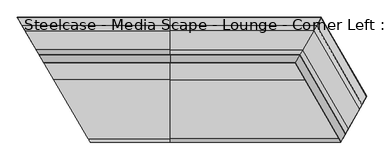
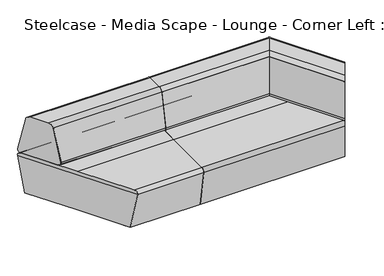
"""IFC4 building model written with IfcOpenShell, lengths in millimetres: furniture geometry, Steelcase - Media Scape - Lounge - Corner Left : Multiple Upholstery - Front Seat and Back."""

from ifc_helpers import new_model, si_unit, point, frame, origin, place, context, project, spatial, polyline, circle_curve, ellipse_curve, trimmed, source, transform, mapped, element, save
from ifc_brep_helpers import plane_surface, cylinder_surface, revolved_surface, advanced_brep


def steelcase_media_scape_lounge_corner_left_multiple_upholstery_6188d228(model_context):
    return source(origin(), model_context, "Body", "AdvancedBrep", [
        advanced_brep(
        [(532.4537919, 416.9525328, 404.6983065), (532.4537919, 808.759271, 404.6983065), (532.4537919, 833.8007481, 375.0457281), (532.4537919, 0.1043175, 375.0457281), (532.4537919, 25.1457946, 404.6983065), (1782.1216274, 416.9525328, 404.6983065), (1556.2434123, 808.759271, 404.6983065), (1541.8068965, 833.8007481, 375.0457281), (1844.1308819, 309.391723, 375.0457281), (1670.1514179, 0.1043175, 375.0457281), (1684.2376778, 25.1457946, 404.6983065), (1844.1308819, 309.391723, 404.6983065)],
        [
            (0, 1),
            (1, 2, circle_curve(frame((532.4537919, 808.759271, 379.2983065), z_axis=(-1.0, 0.0, 0.0), x_axis=(0.0, 1.0, 0.0)), 25.4)),
            (2, 3),
            (3, 4, circle_curve(frame((532.4537919, 25.1457946, 379.2983065), z_axis=(-1.0, 0.0, 0.0), x_axis=(0.0, -1.0, 0.0)), 25.4)),
            (4, 0),
            (0, 5),
            (5, 6),
            (6, 1),
            (6, 7, ellipse_curve(frame((1556.2434123, 808.759271, 379.2983065), z_axis=(-0.866342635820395, -0.4994501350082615, 0.0), x_axis=(-0.49945013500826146, 0.8663426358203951, 0.0)), 29.318654, 25.4)),
            (7, 2),
            (7, 8),
            (8, 9),
            (9, 3),
            (9, 10, ellipse_curve(frame((1684.2376778, 25.1457946, 379.2983065), z_axis=(-0.8715691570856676, 0.4902725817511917, 0.0), x_axis=(-0.49027258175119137, -0.8715691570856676, 0.0)), 29.1428394, 25.4)),
            (10, 4),
            (10, 11),
            (11, 5),
            (8, 11),
        ],
        [
            plane_surface(frame((532.4537919, 891.4773142, 404.6983065), z_axis=(-1.0, 0.0, 0.0), x_axis=(0.0, 1.0, 0.0))),
            plane_surface(frame((532.4537919, 416.9525328, 404.6983065), z_axis=(0.0, 0.0, 1.0), x_axis=(1.0, 0.0, 0.0))),
            cylinder_surface(frame((1888.7682205, 808.759271, 379.2983065), z_axis=(-1.0, 0.0, 0.0), x_axis=(0.0, 1.0, 0.0)), 25.4),
            plane_surface(frame((532.4537919, 833.8007481, 375.0457281), z_axis=(0.0, 0.0, -1.0), x_axis=(1.0, 0.0, 0.0))),
            cylinder_surface(frame((1888.7682205, 25.1457946, 379.2983065), z_axis=(-1.0, 0.0, 0.0), x_axis=(0.0, -1.0, 0.0)), 25.4),
            plane_surface(frame((532.4537919, 25.1457946, 404.6983065), z_axis=(0.0, 0.0, 1.0), x_axis=(1.0, 0.0, 0.0))),
            plane_surface(frame((1844.1308819, 309.391723, 975.8102777), z_axis=(0.8715691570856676, -0.4902725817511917, 0.0), x_axis=(0.0, 0.0, -1.0))),
            plane_surface(frame((1512.8100786, 884.0984212, 975.8102777), z_axis=(0.866342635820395, 0.4994501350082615, 0.0), x_axis=(0.0, 0.0, -1.0))),
        ],
        [
            (0, [[1, 2, 3, 4, 5]]),
            (1, [[-1, 6, 7, 8]]),
            (2, [[-2, -8, 9, 10]]),
            (3, [[-3, -10, 11, 12, 13]]),
            (4, [[-4, -13, 14, 15]]),
            (5, [[-5, -15, 16, 17, -6]]),
            (6, [[18, -16, -14, -12]]),
            (7, [[-18, -11, -9, -7, -17]]),
        ],
    ),
        advanced_brep(
        [(532.4537919, 416.9525328, 404.6983065), (532.4537919, 25.1457946, 404.6983065), (532.4537919, 0.1043175, 375.0457281), (532.4537919, 833.8007481, 375.0457281), (532.4537919, 808.759271, 404.6983065), (-243.5508969, 416.9525328, 404.6983065), (-14.6881967, 25.1457946, 404.6983065), (-0.0609341, 0.1043175, 375.0457281), (-487.0408596, 833.8007481, 375.0457281), (-472.413597, 808.759271, 404.6983065)],
        [
            (0, 1),
            (1, 2, circle_curve(frame((532.4537919, 25.1457946, 379.2983065), z_axis=(1.0, 0.0, 0.0), x_axis=(0.0, -1.0, 0.0)), 25.4)),
            (2, 3),
            (3, 4, circle_curve(frame((532.4537919, 808.759271, 379.2983065), z_axis=(1.0, 0.0, 0.0), x_axis=(0.0, 1.0, 0.0)), 25.4)),
            (4, 0),
            (0, 5),
            (5, 6),
            (6, 1),
            (6, 7, ellipse_curve(frame((-14.6881967, 25.1457946, 379.2983065), z_axis=(0.8634825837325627, 0.5043786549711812, 0.0), x_axis=(0.5043786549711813, -0.8634825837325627, 0.0)), 29.4157641, 25.4)),
            (7, 2),
            (7, 8),
            (8, 3),
            (8, 9, ellipse_curve(frame((-472.413597, 808.759271, 379.2983065), z_axis=(0.8634825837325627, 0.5043786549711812, 0.0), x_axis=(0.5043786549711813, -0.8634825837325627, 0.0)), 29.4157641, 25.4)),
            (9, 4),
            (9, 5),
        ],
        [
            plane_surface(frame((532.4537919, -57.5722485, 404.6983065), z_axis=(1.0, 0.0, 0.0), x_axis=(0.0, -1.0, 0.0))),
            plane_surface(frame((532.4537919, 416.9525328, 404.6983065), z_axis=(0.0, 0.0, 1.0), x_axis=(-1.0, 0.0, 0.0))),
            cylinder_surface(frame((-497.6810517, 25.1457946, 379.2983065), z_axis=(1.0, 0.0, 0.0), x_axis=(0.0, -1.0, 0.0)), 25.4),
            plane_surface(frame((532.4537919, 0.1043175, 375.0457281), z_axis=(0.0, 0.0, -1.0), x_axis=(-1.0, 0.0, 0.0))),
            cylinder_surface(frame((-497.6810517, 808.759271, 379.2983065), z_axis=(1.0, 0.0, 0.0), x_axis=(0.0, 1.0, 0.0)), 25.4),
            plane_surface(frame((532.4537919, 808.759271, 404.6983065), z_axis=(0.0, 0.0, 1.0), x_axis=(-1.0, 0.0, 0.0))),
            plane_surface(frame((43.2681632, -74.0739223, 831.6576803), z_axis=(-0.8634825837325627, -0.5043786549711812, 0.0), x_axis=(0.0, 0.0, -1.0))),
        ],
        [
            (0, [[1, 2, 3, 4, 5]]),
            (1, [[-1, 6, 7, 8]]),
            (2, [[-2, -8, 9, 10]]),
            (3, [[-3, -10, 11, 12]]),
            (4, [[-4, -12, 13, 14]]),
            (5, [[-5, -14, 15, -6]]),
            (6, [[-7, -15, -13, -11, -9]]),
        ],
    ),
        advanced_brep(
        [(532.4537919, 556.3973372, 404.1903065), (532.4537919, 807.0353985, 404.1903065), (532.4537919, 807.0353985, 405.2063065), (532.4537919, 556.5535694, 405.2063065), (532.4537919, 532.5050909, 434.4651844), (532.4537919, 586.4222592, 707.6422134), (532.4537919, 585.386659, 707.6422134), (532.4537919, 531.4780681, 434.5086426), (-310.4477128, 531.4780681, 434.5086426), (-325.0035911, 556.3973372, 404.1903065), (-341.9368743, 585.386659, 707.6422134), (-342.5417906, 586.4222592, 707.6422134), (-311.0476188, 532.5050909, 434.4651844), (-325.0948497, 556.5535694, 405.2063065), (-471.4066462, 807.0353985, 405.2063065), (-471.4066462, 807.0353985, 404.1903065)],
        [
            (0, 1),
            (1, 2),
            (2, 3),
            (3, 4, circle_curve(frame((532.4537919, 556.5535694, 429.718717), z_axis=(-1.0, 0.0, 0.0), x_axis=(0.0, -1.0, 0.0)), 24.5124105)),
            (4, 5),
            (5, 6),
            (6, 7),
            (7, 0, circle_curve(frame((532.4537919, 556.3973372, 429.5903065), z_axis=(1.0, 0.0, 0.0), x_axis=(0.0, -1.0, 0.0)), 25.4)),
            (7, 8),
            (8, 9, ellipse_curve(frame((-325.0035911, 556.3973372, 429.5903065), z_axis=(0.8634825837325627, 0.5043786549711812, 0.0), x_axis=(-0.5043786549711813, 0.8634825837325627, 0.0)), 29.4157641, 25.4)),
            (9, 0),
            (6, 10),
            (10, 8),
            (5, 11),
            (11, 10),
            (4, 12),
            (12, 11),
            (3, 13),
            (13, 12, ellipse_curve(frame((-325.0948497, 556.5535694, 429.718717), z_axis=(-0.8634825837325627, -0.5043786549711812, 0.0), x_axis=(0.5043786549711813, -0.8634825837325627, 0.0)), 28.3878459, 24.5124105)),
            (2, 14),
            (14, 13),
            (1, 15),
            (15, 14),
            (9, 15),
        ],
        [
            plane_surface(frame((532.4537919, 530.9973372, 429.5903065), z_axis=(1.0, 0.0, 0.0), x_axis=(0.0, 0.0, -1.0))),
            cylinder_surface(frame((532.4537919, 556.3973372, 429.5903065), z_axis=(-1.0, 0.0, 0.0), x_axis=(0.0, -1.0, 0.0)), 25.4),
            plane_surface(frame((-494.2685786, 531.4780681, 434.5086426), z_axis=(0.0, -0.9810735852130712, 0.1936352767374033), x_axis=(1.0, 0.0, 0.0))),
            plane_surface(frame((-494.2685786, 585.386659, 707.6422134), z_axis=(0.0, 0.0, 1.0), x_axis=(1.0, 0.0, 0.0))),
            plane_surface(frame((-494.2685786, 586.4222592, 707.6422134), z_axis=(0.0, 0.9810735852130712, -0.19363527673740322), x_axis=(1.0, 0.0, 0.0))),
            revolved_surface(polyline([(532.4537919, 532.0411589, 429.718717), (-339.41307323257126, 532.0411589, 429.718717)]), (532.4537919, 556.5535694, 429.718717), (1.0, 0.0, 0.0)),
            plane_surface(frame((-494.2685786, 556.5535694, 405.2063065), z_axis=(0.0, 0.0, 1.0), x_axis=(1.0, 0.0, 0.0))),
            plane_surface(frame((-494.2685786, 807.0353985, 405.2063065), z_axis=(0.0, 1.0, 0.0), x_axis=(1.0, 0.0, 0.0))),
            plane_surface(frame((-494.2685786, 807.0353985, 404.1903065), z_axis=(0.0, 0.0, -1.0), x_axis=(1.0, 0.0, 0.0))),
            plane_surface(frame((43.2681632, -74.0739223, 831.6576803), z_axis=(-0.8634825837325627, -0.5043786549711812, 0.0), x_axis=(0.0, 0.0, -1.0))),
        ],
        [
            (0, [[1, 2, 3, 4, 5, 6, 7, 8]]),
            (1, [[-8, 9, 10, 11]]),
            (2, [[-7, 12, 13, -9]]),
            (3, [[-6, 14, 15, -12]]),
            (4, [[-5, 16, 17, -14]]),
            (5, [[-4, 18, 19, -16]]),
            (6, [[-3, 20, 21, -18]]),
            (7, [[-2, 22, 23, -20]]),
            (8, [[-1, -11, 24, -22]]),
            (9, [[-10, -13, -15, -17, -19, -21, -23, -24]]),
        ],
    ),
        advanced_brep(
        [(532.4537919, 556.3973372, 404.1903065), (532.4537919, 531.4780681, 434.5086426), (532.4537919, 585.386659, 707.6422134), (532.4537919, 586.4222592, 707.6422134), (532.4537919, 532.5050909, 434.4651844), (532.4537919, 556.5535694, 405.2063065), (532.4537919, 807.0353985, 405.2063065), (532.4537919, 807.0353985, 404.1903065), (1527.340485, 807.0353985, 404.1903065), (1382.6405156, 556.3973372, 404.1903065), (1527.340485, 807.0353985, 405.2063065), (1382.7307126, 556.5535694, 405.2063065), (1368.8468911, 532.5050909, 434.4651844), (1399.9746957, 586.4222592, 707.6422134), (1399.3768164, 585.386659, 707.6422134), (1368.2539637, 531.4780681, 434.5086426)],
        [
            (0, 1, circle_curve(frame((532.4537919, 556.3973372, 429.5903065), z_axis=(-1.0, 0.0, 0.0), x_axis=(0.0, -1.0, 0.0)), 25.4)),
            (1, 2),
            (2, 3),
            (3, 4),
            (4, 5, circle_curve(frame((532.4537919, 556.5535694, 429.718717), z_axis=(1.0, 0.0, 0.0), x_axis=(0.0, -1.0, 0.0)), 24.5124105)),
            (5, 6),
            (6, 7),
            (7, 0),
            (7, 8),
            (8, 9),
            (9, 0),
            (6, 10),
            (10, 8),
            (5, 11),
            (11, 10),
            (4, 12),
            (12, 11, ellipse_curve(frame((1382.7307126, 556.5535694, 429.718717), z_axis=(0.8660343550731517, -0.4999844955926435, 0.0), x_axis=(-0.4999844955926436, -0.8660343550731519, 0.0)), 28.3042011, 24.5124105)),
            (3, 13),
            (13, 12),
            (2, 14),
            (14, 13),
            (1, 15),
            (15, 14),
            (9, 15, ellipse_curve(frame((1382.6405156, 556.3973372, 429.5903065), z_axis=(-0.8660343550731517, 0.4999844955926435, 0.0), x_axis=(0.4999844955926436, 0.8660343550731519, 0.0)), 29.3290905, 25.4)),
        ],
        [
            plane_surface(frame((532.4537919, 852.9550656, 404.1903065), z_axis=(-1.0, 0.0, 0.0), x_axis=(0.0, -1.0, 0.0))),
            plane_surface(frame((1559.1761623, 556.3973372, 404.1903065), z_axis=(0.0, 0.0, -1.0), x_axis=(-1.0, 0.0, 0.0))),
            plane_surface(frame((1559.1761623, 807.0353985, 404.1903065), z_axis=(0.0, 1.0, 0.0), x_axis=(-1.0, 0.0, 0.0))),
            plane_surface(frame((1559.1761623, 807.0353985, 405.2063065), z_axis=(0.0, 0.0, 1.0), x_axis=(-1.0, 0.0, 0.0))),
            revolved_surface(polyline([(532.4537919, 532.0411589, 429.718717), (1396.8823743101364, 532.0411589, 429.718717)]), (532.4537919, 556.5535694, 429.718717), (-1.0, 0.0, 0.0)),
            plane_surface(frame((1559.1761623, 532.5050909, 434.4651844), z_axis=(0.0, 0.9810735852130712, -0.19363527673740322), x_axis=(-1.0, 0.0, 0.0))),
            plane_surface(frame((1559.1761623, 586.4222592, 707.6422134), z_axis=(0.0, 0.0, 1.0), x_axis=(-1.0, 0.0, 0.0))),
            plane_surface(frame((1559.1761623, 585.386659, 707.6422134), z_axis=(0.0, -0.9810735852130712, 0.1936352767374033), x_axis=(-1.0, 0.0, 0.0))),
            cylinder_surface(frame((532.4537919, 556.3973372, 429.5903065), z_axis=(1.0, 0.0, 0.0), x_axis=(0.0, -1.0, 0.0)), 25.4),
            plane_surface(frame((1578.9048197, 896.3511388, 783.4745435), z_axis=(0.8660343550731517, -0.4999844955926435, 0.0), x_axis=(0.0, 0.0, -1.0))),
        ],
        [
            (0, [[1, 2, 3, 4, 5, 6, 7, 8]]),
            (1, [[-8, 9, 10, 11]]),
            (2, [[-7, 12, 13, -9]]),
            (3, [[-6, 14, 15, -12]]),
            (4, [[-5, 16, 17, -14]]),
            (5, [[-4, 18, 19, -16]]),
            (6, [[-3, 20, 21, -18]]),
            (7, [[-2, 22, 23, -20]]),
            (8, [[-1, -11, 24, -22]]),
            (9, [[-10, -13, -15, -17, -19, -21, -23, -24]]),
        ],
    ),
        advanced_brep(
        [(532.4537919, 744.618392, 735.1171206), (532.4537919, 778.0460766, 707.6422134), (532.4537919, 831.9045354, 434.7626426), (532.4537919, 806.9852663, 404.4443065), (532.4537919, 556.7014693, 404.4443065), (532.4537919, 531.7822003, 434.7626426), (532.4537919, 585.640659, 707.6422134), (532.4537919, 619.0683436, 735.1171206), (1418.8221421, 619.0683436, 735.1171206), (1491.3054994, 744.618392, 735.1171206), (1399.5234573, 585.640659, 707.6422134), (1368.4295472, 531.7822003, 434.7626426), (1382.8160991, 556.7014693, 404.4443065), (1527.3115423, 806.9852663, 404.4443065), (1541.6980942, 831.9045354, 434.7626426), (1510.6041842, 778.0460766, 707.6422134)],
        [
            (0, 1, circle_curve(frame((532.4537919, 744.618392, 701.0445646), z_axis=(-1.0, 0.0, 0.0), x_axis=(0.0, 1.0, 0.0)), 34.0725559)),
            (1, 2),
            (2, 3, circle_curve(frame((532.4537919, 806.9852663, 429.8443065), z_axis=(-1.0, 0.0, 0.0), x_axis=(0.0, 1.0, 0.0)), 25.4)),
            (3, 4),
            (4, 5, circle_curve(frame((532.4537919, 556.7014693, 429.8443065), z_axis=(-1.0, 0.0, 0.0), x_axis=(0.0, -1.0, 0.0)), 25.4)),
            (5, 6),
            (6, 7, circle_curve(frame((532.4537919, 619.0683436, 701.0445646), z_axis=(-1.0, 0.0, 0.0), x_axis=(0.0, -1.0, 0.0)), 34.0725559)),
            (7, 0),
            (7, 8),
            (8, 9),
            (9, 0),
            (6, 10),
            (10, 8, ellipse_curve(frame((1418.8221421, 619.0683436, 701.0445646), z_axis=(-0.8660343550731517, 0.4999844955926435, 0.0), x_axis=(0.4999844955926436, 0.8660343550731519, 0.0)), 39.343192, 34.0725559)),
            (5, 11),
            (11, 10),
            (4, 12),
            (12, 11, ellipse_curve(frame((1382.8160991, 556.7014693, 429.8443065), z_axis=(-0.8660343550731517, 0.4999844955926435, 0.0), x_axis=(0.4999844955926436, 0.8660343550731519, 0.0)), 29.3290905, 25.4)),
            (3, 13),
            (13, 12),
            (2, 14),
            (14, 13, ellipse_curve(frame((1527.3115423, 806.9852663, 429.8443065), z_axis=(-0.8660343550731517, 0.4999844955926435, 0.0), x_axis=(0.4999844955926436, 0.8660343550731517, 0.0)), 29.3290905, 25.4)),
            (1, 15),
            (15, 14),
            (9, 15, ellipse_curve(frame((1491.3054994, 744.618392, 701.0445646), z_axis=(-0.8660343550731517, 0.4999844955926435, 0.0), x_axis=(0.4999844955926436, 0.8660343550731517, 0.0)), 39.343192, 34.0725559)),
        ],
        [
            plane_surface(frame((532.4537919, 567.2050656, 735.1171206), z_axis=(-1.0, 0.0, 0.0), x_axis=(0.0, 1.0, 0.0))),
            plane_surface(frame((1559.1761623, 744.618392, 735.1171206), z_axis=(0.0, 0.0, 1.0), x_axis=(-1.0, 0.0, 0.0))),
            cylinder_surface(frame((532.4537919, 619.0683436, 701.0445646), z_axis=(1.0, 0.0, 0.0), x_axis=(0.0, -1.0, 0.0)), 34.0725559),
            plane_surface(frame((1559.1761623, 585.640659, 707.6422134), z_axis=(0.0, -0.9810735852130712, 0.19363527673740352), x_axis=(-1.0, 0.0, 0.0))),
            cylinder_surface(frame((532.4537919, 556.7014693, 429.8443065), z_axis=(1.0, 0.0, 0.0), x_axis=(0.0, -1.0, 0.0)), 25.4),
            plane_surface(frame((1559.1761623, 556.7014693, 404.4443065), z_axis=(0.0, 0.0, -1.0), x_axis=(-1.0, 0.0, 0.0))),
            cylinder_surface(frame((532.4537919, 806.9852663, 429.8443065), z_axis=(1.0, 0.0, 0.0), x_axis=(0.0, 1.0, 0.0)), 25.4),
            plane_surface(frame((1559.1761623, 831.9045354, 434.7626426), z_axis=(0.0, 0.9810735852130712, 0.19363527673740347), x_axis=(-1.0, 0.0, 0.0))),
            cylinder_surface(frame((532.4537919, 744.618392, 701.0445646), z_axis=(1.0, 0.0, 0.0), x_axis=(0.0, 1.0, 0.0)), 34.0725559),
            plane_surface(frame((1578.9048197, 896.3511388, 783.4745435), z_axis=(0.8660343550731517, -0.4999844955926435, 0.0), x_axis=(0.0, 0.0, -1.0))),
        ],
        [
            (0, [[1, 2, 3, 4, 5, 6, 7, 8]]),
            (1, [[-8, 9, 10, 11]]),
            (2, [[-7, 12, 13, -9]]),
            (3, [[-6, 14, 15, -12]]),
            (4, [[-5, 16, 17, -14]]),
            (5, [[-4, 18, 19, -16]]),
            (6, [[-3, 20, 21, -18]]),
            (7, [[-2, 22, 23, -20]]),
            (8, [[-1, -11, 24, -22]]),
            (9, [[-10, -13, -15, -17, -19, -21, -23, -24]]),
        ],
    ),
        advanced_brep(
        [(1829.3724282, 283.1552709, 404.1903065), (1686.4957828, 29.1600812, 404.1903065), (1382.5908777, 556.3113583, 404.1903065), (1527.3469243, 807.0465521, 404.1903065), (1829.3724282, 283.1552709, 405.2063065), (1527.3469243, 807.0465521, 405.2063065), (1686.5848432, 29.3184061, 405.2063065), (1382.6811097, 556.4676511, 405.2063065), (1672.8759679, 4.9478144, 434.4651844), (1368.7919076, 532.4098528, 434.4651844), (1703.6115398, 59.5871669, 707.6422134), (1399.9317756, 586.3479162, 707.6422134), (1703.0211941, 58.5376956, 707.6422134), (1399.3336645, 585.3119147, 707.6422134), (1672.2905119, 3.9070353, 434.5086426), (1368.1987505, 531.382432, 434.5086426)],
        [
            (0, 1),
            (1, 2),
            (2, 3),
            (3, 0),
            (4, 0),
            (3, 5),
            (5, 4),
            (6, 4),
            (5, 7),
            (7, 6),
            (8, 6, ellipse_curve(frame((1686.5848432, 29.3184061, 429.718717), z_axis=(0.8715691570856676, -0.4902725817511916, 0.0), x_axis=(0.4902725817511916, 0.8715691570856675, 0.0)), 28.5011666, 24.5124105)),
            (7, 9, ellipse_curve(frame((1382.6811097, 556.4676511, 429.718717), z_axis=(-0.8660343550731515, 0.499984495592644, 0.0), x_axis=(0.49998449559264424, 0.8660343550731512, 0.0)), 28.3151701, 24.5124105)),
            (9, 8),
            (10, 8),
            (9, 11),
            (11, 10),
            (12, 10),
            (11, 13),
            (13, 12),
            (14, 12),
            (13, 15),
            (15, 14),
            (1, 14, ellipse_curve(frame((1686.4957828, 29.1600812, 429.5903065), z_axis=(-0.8715691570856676, 0.4902725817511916, 0.0), x_axis=(-0.4902725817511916, -0.8715691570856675, 0.0)), 29.5331882, 25.4)),
            (15, 2, ellipse_curve(frame((1382.5908777, 556.3113583, 429.5903065), z_axis=(0.8660343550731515, -0.499984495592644, 0.0), x_axis=(-0.49998449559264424, -0.8660343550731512, 0.0)), 29.3404568, 25.4)),
        ],
        [
            plane_surface(frame((1704.9150125, -2.789783, 404.1903065), z_axis=(0.0, 0.0, -1.0), x_axis=(-0.4994501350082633, 0.8663426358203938, 0.0))),
            plane_surface(frame((1922.0534512, 122.3914306, 404.1903065), z_axis=(0.8663426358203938, 0.4994501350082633, 0.0), x_axis=(-0.4994501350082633, 0.8663426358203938, 0.0))),
            plane_surface(frame((1922.0534512, 122.3914306, 405.2063065), z_axis=(0.0, 0.0, 1.0), x_axis=(-0.4994501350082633, 0.8663426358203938, 0.0))),
            revolved_surface(polyline([(1354.3659630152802, 556.5041076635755, 429.718717), (1672.6115026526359, 4.4776683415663, 429.718717)]), (1273.7252265, 745.4617475, 429.718717), (-0.4994501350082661, 0.8663426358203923, 0.0)),
            plane_surface(frame((1684.2161409, -14.7227686, 434.4651844), z_axis=(0.8499458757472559, 0.48999733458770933, -0.19363527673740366), x_axis=(-0.4994501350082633, 0.8663426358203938, 0.0))),
            plane_surface(frame((1730.9268826, 12.2061684, 707.6422134), z_axis=(0.0, 0.0, 1.0), x_axis=(-0.49945013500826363, 0.8663426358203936, 0.0))),
            plane_surface(frame((1730.029698, 11.6889377, 707.6422134), z_axis=(-0.849945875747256, -0.4899973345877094, 0.19363527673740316), x_axis=(-0.4994501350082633, 0.8663426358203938, 0.0))),
            cylinder_surface(frame((1273.5898759, 745.3837173, 429.5903065), z_axis=(0.4994501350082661, -0.8663426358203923, 0.0), x_axis=(-0.8663426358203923, -0.4994501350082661, 0.0)), 25.4),
            plane_surface(frame((1844.1308819, 309.391723, 783.4745435), z_axis=(0.8715691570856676, -0.4902725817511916, 0.0), x_axis=(0.0, 0.0, -1.0))),
            plane_surface(frame((1312.2130898, 434.4084138, 783.4745435), z_axis=(-0.8660343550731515, 0.499984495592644, 0.0), x_axis=(0.0, 0.0, -1.0))),
        ],
        [
            (0, [[1, 2, 3, 4]]),
            (1, [[5, -4, 6, 7]]),
            (2, [[8, -7, 9, 10]]),
            (3, [[11, -10, 12, 13]]),
            (4, [[14, -13, 15, 16]]),
            (5, [[17, -16, 18, 19]]),
            (6, [[20, -19, 21, 22]]),
            (7, [[23, -22, 24, -2]]),
            (8, [[-1, -5, -8, -11, -14, -17, -20, -23]]),
            (9, [[-3, -24, -21, -18, -15, -12, -9, -6]]),
        ],
    ),
        advanced_brep(
        [(1722.2214947, 92.6705237, 735.1171206), (1793.7915094, 219.9022306, 735.1171206), (1491.2979737, 744.6053565, 735.1171206), (1418.7865261, 619.0066524, 735.1171206), (1703.1659873, 58.7950977, 707.6422134), (1399.4803623, 585.5660131, 707.6422134), (1672.4638829, 4.2152411, 434.7626426), (1368.3744021, 531.686682, 434.7626426), (1686.6691539, 29.468287, 404.4443065), (1382.7665293, 556.6156083, 404.4443065), (1829.3438503, 283.1044672, 404.4443065), (1527.3179704, 806.9964005, 404.4443065), (1843.5491212, 308.3575131, 434.7626426), (1541.7100977, 831.9253268, 434.7626426), (1812.8470169, 253.7776565, 707.6422134), (1510.6041375, 778.0459957, 707.6422134)],
        [
            (0, 1),
            (1, 2),
            (2, 3),
            (3, 0),
            (4, 0, ellipse_curve(frame((1722.2214947, 92.6705237, 701.0445646), z_axis=(-0.8715691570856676, 0.4902725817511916, 0.0), x_axis=(-0.4902725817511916, -0.8715691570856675, 0.0)), 39.6169766, 34.0725559)),
            (3, 5, ellipse_curve(frame((1418.7865261, 619.0066524, 701.0445646), z_axis=(0.8660343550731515, -0.499984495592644, 0.0), x_axis=(-0.49998449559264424, -0.8660343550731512, 0.0)), 39.3584391, 34.0725559)),
            (5, 4),
            (6, 4),
            (5, 7),
            (7, 6),
            (8, 6, ellipse_curve(frame((1686.6691539, 29.468287, 429.8443065), z_axis=(-0.8715691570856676, 0.4902725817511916, 0.0), x_axis=(-0.4902725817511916, -0.8715691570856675, 0.0)), 29.5331882, 25.4)),
            (7, 9, ellipse_curve(frame((1382.7665293, 556.6156083, 429.8443065), z_axis=(0.8660343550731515, -0.499984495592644, 0.0), x_axis=(-0.49998449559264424, -0.8660343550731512, 0.0)), 29.3404568, 25.4)),
            (9, 8),
            (10, 8),
            (9, 11),
            (11, 10),
            (12, 10, ellipse_curve(frame((1829.3438503, 283.1044672, 429.8443065), z_axis=(-0.8715691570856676, 0.4902725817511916, 0.0), x_axis=(-0.49027258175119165, -0.8715691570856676, 0.0)), 29.5331882, 25.4)),
            (11, 13, ellipse_curve(frame((1527.3179704, 806.9964005, 429.8443065), z_axis=(0.8660343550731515, -0.499984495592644, 0.0), x_axis=(-0.4999844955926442, -0.8660343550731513, 0.0)), 29.3404568, 25.4)),
            (13, 12),
            (14, 12),
            (13, 15),
            (15, 14),
            (1, 14, ellipse_curve(frame((1793.7915094, 219.9022306, 701.0445646), z_axis=(-0.8715691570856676, 0.4902725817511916, 0.0), x_axis=(-0.49027258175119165, -0.8715691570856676, 0.0)), 39.6169766, 34.0725559)),
            (15, 2, ellipse_curve(frame((1491.2979737, 744.6053565, 701.0445646), z_axis=(0.8660343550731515, -0.499984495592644, 0.0), x_axis=(-0.4999844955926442, -0.8660343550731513, 0.0)), 39.3584391, 34.0725559)),
        ],
        [
            plane_surface(frame((1867.9789373, 91.2172483, 735.1171206), z_axis=(0.0, 0.0, 1.0), x_axis=(-0.4994501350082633, 0.8663426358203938, 0.0))),
            cylinder_surface(frame((1327.8844408, 776.6847599, 701.0445646), z_axis=(0.4994501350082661, -0.8663426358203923, 0.0), x_axis=(-0.8663426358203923, -0.4994501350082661, 0.0)), 34.0725559),
            plane_surface(frame((1730.249749, 11.815798, 707.6422134), z_axis=(-0.849945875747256, -0.4899973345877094, 0.19363527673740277), x_axis=(-0.4994501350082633, 0.8663426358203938, 0.0))),
            cylinder_surface(frame((1273.8533586, 745.5356162, 429.8443065), z_axis=(0.4994501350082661, -0.8663426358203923, 0.0), x_axis=(-0.8663426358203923, -0.4994501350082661, 0.0)), 25.4),
            plane_surface(frame((1705.1784952, -2.6378841, 404.4443065), z_axis=(0.0, 0.0, -1.0000000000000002), x_axis=(-0.4994501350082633, 0.866342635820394, 0.0))),
            cylinder_surface(frame((1490.6848829, 870.5398923, 429.8443065), z_axis=(0.49945013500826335, -0.8663426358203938, 0.0), x_axis=(0.8663426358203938, 0.49945013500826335, 0.0)), 25.4),
            plane_surface(frame((1943.5986448, 134.8123243, 434.7626426), z_axis=(0.8499458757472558, 0.48999733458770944, 0.193635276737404), x_axis=(-0.49945013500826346, 0.8663426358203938, 0.0))),
            cylinder_surface(frame((1436.6538007, 839.3907486, 701.0445646), z_axis=(0.49945013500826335, -0.8663426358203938, 0.0), x_axis=(0.8663426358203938, 0.49945013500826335, 0.0)), 34.0725559),
            plane_surface(frame((1844.1308819, 309.391723, 783.4745435), z_axis=(0.8715691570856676, -0.4902725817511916, 0.0), x_axis=(0.0, 0.0, -1.0))),
            plane_surface(frame((1312.2130898, 434.4084138, 783.4745435), z_axis=(-0.8660343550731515, 0.499984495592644, 0.0), x_axis=(0.0, 0.0, -1.0))),
        ],
        [
            (0, [[1, 2, 3, 4]]),
            (1, [[5, -4, 6, 7]]),
            (2, [[8, -7, 9, 10]]),
            (3, [[11, -10, 12, 13]]),
            (4, [[14, -13, 15, 16]]),
            (5, [[17, -16, 18, 19]]),
            (6, [[20, -19, 21, 22]]),
            (7, [[23, -22, 24, -2]]),
            (8, [[-1, -5, -8, -11, -14, -17, -20, -23]]),
            (9, [[-3, -24, -21, -18, -15, -12, -9, -6]]),
        ],
    ),
        advanced_brep(
        [(532.4537919, 416.9525328, 404.4443065), (532.4537919, 808.4584998, 404.4443065), (532.4537919, 833.4999769, 374.7917281), (532.4537919, 782.5280351, 74.6414242), (532.4537919, 416.9525328, 74.6414242), (532.4537919, 51.3770305, 74.6414242), (532.4537919, 0.4050887, 374.7917281), (532.4537919, 25.4465658, 404.4443065), (1782.1216274, 416.9525328, 404.4443065), (1556.4168081, 808.4584998, 404.4443065), (1541.9802923, 833.4999769, 374.7917281), (1571.3658289, 782.5280351, 74.6414242), (1782.1216274, 416.9525328, 74.6414242), (1844.1308819, 309.391723, 74.6414242), (1698.9931974, 51.3770305, 74.6414242), (1670.3206069, 0.4050887, 374.7917281), (1684.4068668, 25.4465658, 404.4443065), (1844.1308819, 309.391723, 404.4443065)],
        [
            (0, 1),
            (1, 2, circle_curve(frame((532.4537919, 808.4584998, 379.0443065), z_axis=(-1.0, 0.0, 0.0), x_axis=(0.0, 1.0, 0.0)), 25.4)),
            (2, 3),
            (3, 4),
            (4, 5),
            (5, 6),
            (6, 7, circle_curve(frame((532.4537919, 25.4465658, 379.0443065), z_axis=(-1.0, 0.0, 0.0), x_axis=(0.0, -1.0, 0.0)), 25.4)),
            (7, 0),
            (0, 8),
            (8, 9),
            (9, 1),
            (9, 10, ellipse_curve(frame((1556.4168081, 808.4584998, 379.0443065), z_axis=(-0.8663426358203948, -0.4994501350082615, 0.0), x_axis=(-0.4994501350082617, 0.866342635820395, 0.0)), 29.318654, 25.4)),
            (10, 2),
            (10, 11),
            (11, 3),
            (11, 12),
            (12, 4),
            (12, 13),
            (13, 14),
            (14, 5),
            (14, 15),
            (15, 6),
            (15, 16, ellipse_curve(frame((1684.4068668, 25.4465658, 379.0443065), z_axis=(-0.8715691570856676, 0.4902725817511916, 0.0), x_axis=(-0.4902725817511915, -0.8715691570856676, 0.0)), 29.1428394, 25.4)),
            (16, 7),
            (16, 17),
            (17, 8),
            (13, 17),
        ],
        [
            plane_surface(frame((532.4537919, 891.4773142, 404.4443065), z_axis=(-1.0, 0.0, 0.0), x_axis=(0.0, 1.0, 0.0))),
            plane_surface(frame((532.4537919, 416.9525328, 404.4443065), z_axis=(0.0, 0.0, 1.0), x_axis=(1.0, 0.0, 0.0))),
            cylinder_surface(frame((1864.4893496, 808.4584998, 379.0443065), z_axis=(-1.0, 0.0, 0.0), x_axis=(0.0, 1.0, 0.0)), 25.4),
            plane_surface(frame((532.4537919, 833.4999769, 374.7917281), z_axis=(0.0, 0.9858849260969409, -0.1674243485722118), x_axis=(1.0, 0.0, 0.0))),
            plane_surface(frame((532.4537919, 782.5280351, 74.6414242), z_axis=(0.0, 0.0, -1.0), x_axis=(1.0, 0.0, 0.0))),
            plane_surface(frame((532.4537919, 416.9525328, 74.6414242), z_axis=(0.0, 0.0, -1.0), x_axis=(1.0, 0.0, 0.0))),
            plane_surface(frame((532.4537919, 51.3770305, 74.6414242), z_axis=(0.0, -0.9858849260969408, -0.16742434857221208), x_axis=(1.0, 0.0, 0.0))),
            cylinder_surface(frame((1864.4893496, 25.4465658, 379.0443065), z_axis=(-1.0, 0.0, 0.0), x_axis=(0.0, -1.0, 0.0)), 25.4),
            plane_surface(frame((532.4537919, 25.4465658, 404.4443065), z_axis=(0.0, 0.0, 1.0), x_axis=(1.0, 0.0, 0.0))),
            plane_surface(frame((1844.1308819, 309.391723, 783.4745435), z_axis=(0.8715691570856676, -0.4902725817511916, 0.0), x_axis=(0.0, 0.0, -1.0))),
            plane_surface(frame((1512.8100786, 884.0984212, 783.4745435), z_axis=(0.8663426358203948, 0.4994501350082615, 0.0), x_axis=(0.0, 0.0, -1.0))),
        ],
        [
            (0, [[1, 2, 3, 4, 5, 6, 7, 8]]),
            (1, [[-1, 9, 10, 11]]),
            (2, [[-2, -11, 12, 13]]),
            (3, [[-3, -13, 14, 15]]),
            (4, [[-4, -15, 16, 17]]),
            (5, [[-5, -17, 18, 19, 20]]),
            (6, [[-6, -20, 21, 22]]),
            (7, [[-7, -22, 23, 24]]),
            (8, [[-8, -24, 25, 26, -9]]),
            (9, [[27, -25, -23, -21, -19]]),
            (10, [[-27, -18, -16, -14, -12, -10, -26]]),
        ],
    ),
        advanced_brep(
        [(532.4537919, 744.618392, 735.1171206), (532.4537919, 619.0683436, 735.1171206), (532.4537919, 585.640659, 707.6422134), (532.4537919, 531.7822003, 434.7626426), (532.4537919, 556.7014693, 404.4443065), (532.4537919, 806.9852663, 404.4443065), (532.4537919, 831.9045354, 434.7626426), (532.4537919, 778.0460766, 707.6422134), (-454.4733629, 778.0460766, 707.6422134), (-434.947537, 744.618392, 735.1171206), (-485.9332412, 831.9045354, 434.7626426), (-471.3773629, 806.9852663, 404.4443065), (-325.1812412, 556.7014693, 404.4443065), (-310.6253629, 531.7822003, 434.7626426), (-342.0852412, 585.640659, 707.6422134), (-361.6110671, 619.0683436, 735.1171206)],
        [
            (0, 1),
            (1, 2, circle_curve(frame((532.4537919, 619.0683436, 701.0445646), z_axis=(1.0, 0.0, 0.0), x_axis=(0.0, -1.0, 0.0)), 34.0725559)),
            (2, 3),
            (3, 4, circle_curve(frame((532.4537919, 556.7014693, 429.8443065), z_axis=(1.0, 0.0, 0.0), x_axis=(0.0, -1.0, 0.0)), 25.4)),
            (4, 5),
            (5, 6, circle_curve(frame((532.4537919, 806.9852663, 429.8443065), z_axis=(1.0, 0.0, 0.0), x_axis=(0.0, 1.0, 0.0)), 25.4)),
            (6, 7),
            (7, 0, circle_curve(frame((532.4537919, 744.618392, 701.0445646), z_axis=(1.0, 0.0, 0.0), x_axis=(0.0, 1.0, 0.0)), 34.0725559)),
            (7, 8),
            (8, 9, ellipse_curve(frame((-434.947537, 744.618392, 701.0445646), z_axis=(0.8634825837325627, 0.5043786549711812, 0.0), x_axis=(-0.5043786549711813, 0.8634825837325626, 0.0)), 39.4594594, 34.0725559)),
            (9, 0),
            (6, 10),
            (10, 8),
            (5, 11),
            (11, 10, ellipse_curve(frame((-471.3773629, 806.9852663, 429.8443065), z_axis=(0.8634825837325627, 0.5043786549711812, 0.0), x_axis=(-0.5043786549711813, 0.8634825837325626, 0.0)), 29.4157641, 25.4)),
            (4, 12),
            (12, 11),
            (3, 13),
            (13, 12, ellipse_curve(frame((-325.1812412, 556.7014693, 429.8443065), z_axis=(0.8634825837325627, 0.5043786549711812, 0.0), x_axis=(-0.5043786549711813, 0.8634825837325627, 0.0)), 29.4157641, 25.4)),
            (2, 14),
            (14, 13),
            (1, 15),
            (15, 14, ellipse_curve(frame((-361.6110671, 619.0683436, 701.0445646), z_axis=(0.8634825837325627, 0.5043786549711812, 0.0), x_axis=(-0.5043786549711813, 0.8634825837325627, 0.0)), 39.4594594, 34.0725559)),
            (9, 15),
        ],
        [
            plane_surface(frame((532.4537919, 778.690948, 701.0445646), z_axis=(1.0, 0.0, 0.0), x_axis=(0.0, 0.0, 1.0))),
            cylinder_surface(frame((532.4537919, 744.618392, 701.0445646), z_axis=(-1.0, 0.0, 0.0), x_axis=(0.0, 1.0, 0.0)), 34.0725559),
            plane_surface(frame((-494.2685786, 778.0460766, 707.6422134), z_axis=(0.0, 0.9810735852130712, 0.19363527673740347), x_axis=(1.0, 0.0, 0.0))),
            cylinder_surface(frame((532.4537919, 806.9852663, 429.8443065), z_axis=(-1.0, 0.0, 0.0), x_axis=(0.0, 1.0, 0.0)), 25.4),
            plane_surface(frame((-494.2685786, 806.9852663, 404.4443065), z_axis=(0.0, 0.0, -1.0), x_axis=(1.0, 0.0, 0.0))),
            cylinder_surface(frame((532.4537919, 556.7014693, 429.8443065), z_axis=(-1.0, 0.0, 0.0), x_axis=(0.0, -1.0, 0.0)), 25.4),
            plane_surface(frame((-494.2685786, 531.7822003, 434.7626426), z_axis=(0.0, -0.9810735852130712, 0.19363527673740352), x_axis=(1.0, 0.0, 0.0))),
            cylinder_surface(frame((532.4537919, 619.0683436, 701.0445646), z_axis=(-1.0, 0.0, 0.0), x_axis=(0.0, -1.0, 0.0)), 34.0725559),
            plane_surface(frame((-494.2685786, 619.0683436, 735.1171206), z_axis=(0.0, 0.0, 1.0), x_axis=(1.0, 0.0, 0.0))),
            plane_surface(frame((43.2681632, -74.0739223, 775.7777302), z_axis=(-0.8634825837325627, -0.5043786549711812, 0.0), x_axis=(0.0, 0.0, -1.0))),
        ],
        [
            (0, [[1, 2, 3, 4, 5, 6, 7, 8]]),
            (1, [[-8, 9, 10, 11]]),
            (2, [[-7, 12, 13, -9]]),
            (3, [[-6, 14, 15, -12]]),
            (4, [[-5, 16, 17, -14]]),
            (5, [[-4, 18, 19, -16]]),
            (6, [[-3, 20, 21, -18]]),
            (7, [[-2, 22, 23, -20]]),
            (8, [[-1, -11, 24, -22]]),
            (9, [[-10, -13, -15, -17, -19, -21, -23, -24]]),
        ],
    ),
        advanced_brep(
        [(532.4537919, 416.9525328, 404.4443065), (532.4537919, 25.4465658, 404.4443065), (532.4537919, 0.4050887, 374.7917281), (532.4537919, 51.3770305, 74.6414242), (532.4537919, 416.9525328, 74.6414242), (532.4537919, 782.5280351, 74.6414242), (532.4537919, 833.4999769, 374.7917281), (532.4537919, 808.4584998, 404.4443065), (-243.5508969, 416.9525328, 404.4443065), (-14.8638836, 25.4465658, 404.4443065), (-0.236621, 0.4050887, 374.7917281), (-30.0104229, 51.3770305, 74.6414242), (-243.5508969, 416.9525328, 74.6414242), (-457.0913708, 782.5280351, 74.6414242), (-486.8651727, 833.4999769, 374.7917281), (-472.2379101, 808.4584998, 404.4443065)],
        [
            (0, 1),
            (1, 2, circle_curve(frame((532.4537919, 25.4465658, 379.0443065), z_axis=(1.0, 0.0, 0.0), x_axis=(0.0, -1.0, 0.0)), 25.4)),
            (2, 3),
            (3, 4),
            (4, 5),
            (5, 6),
            (6, 7, circle_curve(frame((532.4537919, 808.4584998, 379.0443065), z_axis=(1.0, 0.0, 0.0), x_axis=(0.0, 1.0, 0.0)), 25.4)),
            (7, 0),
            (0, 8),
            (8, 9),
            (9, 1),
            (9, 10, ellipse_curve(frame((-14.8638836, 25.4465658, 379.0443065), z_axis=(0.8634825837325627, 0.5043786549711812, 0.0), x_axis=(0.5043786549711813, -0.8634825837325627, 0.0)), 29.4157641, 25.4)),
            (10, 2),
            (10, 11),
            (11, 3),
            (11, 12),
            (12, 4),
            (12, 13),
            (13, 5),
            (13, 14),
            (14, 6),
            (14, 15, ellipse_curve(frame((-472.2379101, 808.4584998, 379.0443065), z_axis=(0.8634825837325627, 0.5043786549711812, 0.0), x_axis=(0.5043786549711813, -0.8634825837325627, 0.0)), 29.4157641, 25.4)),
            (15, 7),
            (15, 8),
        ],
        [
            plane_surface(frame((532.4537919, -57.5722485, 404.4443065), z_axis=(1.0, 0.0, 0.0), x_axis=(0.0, -1.0, 0.0))),
            plane_surface(frame((532.4537919, 416.9525328, 404.4443065), z_axis=(0.0, 0.0, 1.0), x_axis=(-1.0, 0.0, 0.0))),
            cylinder_surface(frame((-497.7585178, 25.4465658, 379.0443065), z_axis=(1.0, 0.0, 0.0), x_axis=(0.0, -1.0, 0.0)), 25.4),
            plane_surface(frame((532.4537919, 0.4050887, 374.7917281), z_axis=(0.0, -0.9858849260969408, -0.16742434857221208), x_axis=(-1.0, 0.0, 0.0))),
            plane_surface(frame((532.4537919, 51.3770305, 74.6414242), z_axis=(0.0, 0.0, -1.0), x_axis=(-1.0, 0.0, 0.0))),
            plane_surface(frame((532.4537919, 416.9525328, 74.6414242), z_axis=(0.0, 0.0, -1.0), x_axis=(-1.0, 0.0, 0.0))),
            plane_surface(frame((532.4537919, 782.5280351, 74.6414242), z_axis=(0.0, 0.9858849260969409, -0.1674243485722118), x_axis=(-1.0, 0.0, 0.0))),
            cylinder_surface(frame((-497.7585178, 808.4584998, 379.0443065), z_axis=(1.0, 0.0, 0.0), x_axis=(0.0, 1.0, 0.0)), 25.4),
            plane_surface(frame((532.4537919, 808.4584998, 404.4443065), z_axis=(0.0, 0.0, 1.0), x_axis=(-1.0, 0.0, 0.0))),
            plane_surface(frame((43.2681632, -74.0739223, 775.7777302), z_axis=(-0.8634825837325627, -0.5043786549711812, 0.0), x_axis=(0.0, 0.0, -1.0))),
        ],
        [
            (0, [[1, 2, 3, 4, 5, 6, 7, 8]]),
            (1, [[-1, 9, 10, 11]]),
            (2, [[-2, -11, 12, 13]]),
            (3, [[-3, -13, 14, 15]]),
            (4, [[-4, -15, 16, 17]]),
            (5, [[-5, -17, 18, 19]]),
            (6, [[-6, -19, 20, 21]]),
            (7, [[-7, -21, 22, 23]]),
            (8, [[-8, -23, 24, -9]]),
            (9, [[-10, -24, -22, -20, -18, -16, -14, -12]]),
        ],
    ),
        advanced_brep(
        [(21.7959658, 197.2230961, 74.1561731), (45.5828859, 197.2230961, 74.1561731), (-1.9909544, 197.2230961, 74.1561731), (-4.2576765, 197.2230961, 0.0), (47.849608, 197.2230961, 0.0), (21.7959658, 197.2230961, 0.0), (-4.2576765, 197.2230961, 6.3788302), (47.849608, 197.2230961, 6.3788302), (12.2709658, 197.2230961, 6.3788302), (31.3209658, 197.2230961, 6.3788302), (12.2709658, 197.2230961, 17.057519), (31.3209658, 197.2230961, 17.057519), (0.8408495, 197.2230961, 17.057519), (42.751082, 197.2230961, 17.057519)],
        [
            (0, 1),
            (1, 2, circle_curve(frame((21.7959658, 197.2230961, 74.1561731), z_axis=(0.0, 0.0, 1.0), x_axis=(1.0, 0.0, 0.0)), 23.7869202)),
            (2, 0),
            (2, 1, circle_curve(frame((21.7959658, 197.2230961, 74.1561731), z_axis=(0.0, 0.0, 1.0), x_axis=(1.0, 0.0, 0.0)), 23.7869202)),
            (3, 4, circle_curve(frame((21.7959658, 197.2230961, 0.0), z_axis=(0.0, 0.0, -1.0), x_axis=(1.0, 0.0, 0.0)), 26.0536423)),
            (4, 5),
            (5, 3),
            (4, 3, circle_curve(frame((21.7959658, 197.2230961, 0.0), z_axis=(0.0, 0.0, -1.0), x_axis=(1.0, 0.0, 0.0)), 26.0536423)),
            (3, 6, circle_curve(frame((-4.2576765, 197.2230961, 3.1894151), z_axis=(0.0, 1.0, 0.0), x_axis=(-1.0, 0.0, 0.0)), 3.1894151)),
            (6, 7, circle_curve(frame((21.7959658, 197.2230961, 6.3788302), z_axis=(0.0, 0.0, -1.0), x_axis=(1.0, 0.0, 0.0)), 26.0536423)),
            (7, 4, circle_curve(frame((47.849608, 197.2230961, 3.1894151), z_axis=(0.0, 1.0, 0.0), x_axis=(1.0, 0.0, 0.0)), 3.1894151)),
            (7, 6, circle_curve(frame((21.7959658, 197.2230961, 6.3788302), z_axis=(0.0, 0.0, -1.0), x_axis=(1.0, 0.0, 0.0)), 26.0536423)),
            (6, 8),
            (8, 9, circle_curve(frame((21.7959658, 197.2230961, 6.3788302), z_axis=(0.0, 0.0, -1.0), x_axis=(1.0, 0.0, 0.0)), 9.525)),
            (9, 7),
            (9, 8, circle_curve(frame((21.7959658, 197.2230961, 6.3788302), z_axis=(0.0, 0.0, -1.0), x_axis=(1.0, 0.0, 0.0)), 9.525)),
            (8, 10),
            (10, 11, circle_curve(frame((21.7959658, 197.2230961, 17.057519), z_axis=(0.0, 0.0, -1.0), x_axis=(1.0, 0.0, 0.0)), 9.525)),
            (11, 9),
            (11, 10, circle_curve(frame((21.7959658, 197.2230961, 17.057519), z_axis=(0.0, 0.0, -1.0), x_axis=(1.0, 0.0, 0.0)), 9.525)),
            (10, 12),
            (12, 13, circle_curve(frame((21.7959658, 197.2230961, 17.057519), z_axis=(0.0, 0.0, -1.0), x_axis=(1.0, 0.0, 0.0)), 20.9551163)),
            (13, 11),
            (13, 12, circle_curve(frame((21.7959658, 197.2230961, 17.057519), z_axis=(0.0, 0.0, -1.0), x_axis=(1.0, 0.0, 0.0)), 20.9551163)),
            (1, 13),
            (12, 2),
        ],
        [
            plane_surface(frame((21.7959658, 197.2230961, 74.1561731), z_axis=(0.0, 0.0, 1.0), x_axis=(1.0, 0.0, 0.0))),
            plane_surface(frame((21.7959658, 197.2230961, 0.0), z_axis=(0.0, 0.0, -1.0), x_axis=(1.0, 0.0, 0.0))),
            revolved_surface(trimmed(ellipse_curve(frame((47.849608, 197.2230961, 3.1894151), z_axis=(0.0, -1.0, 0.0), x_axis=(1.0, 0.0, 0.0)), 3.1894151, 3.1894151), [point((47.849608, 197.2230961, 0.0))], [point((47.849608, 197.2230961, 6.3788302))], True, "CARTESIAN"), (21.7959658, 197.2230961, 61.4561731), (0.0, 0.0, 1.0)),
            plane_surface(frame((21.7959658, 197.2230961, 6.3788302), z_axis=(0.0, 0.0, 1.0), x_axis=(1.0, 0.0, 0.0))),
            cylinder_surface(frame((21.7959658, 197.2230961, 61.4561731), z_axis=(0.0, 0.0, 1.0), x_axis=(1.0, 0.0, 0.0)), 9.525),
            plane_surface(frame((21.7959658, 197.2230961, 17.057519), z_axis=(0.0, 0.0, -1.0), x_axis=(1.0, 0.0, 0.0))),
            revolved_surface(polyline([(42.751082, 197.2230961, 17.057519), (45.5828859, 197.2230961, 74.1561731)]), (21.7959658, 197.2230961, 61.4561731), (0.0, 0.0, 1.0)),
        ],
        [
            (0, [[1, 2, 3]]),
            (0, [[-1, -3, 4]]),
            (1, [[5, 6, 7]]),
            (1, [[-6, 8, -7]]),
            (2, [[-5, 9, 10, 11]]),
            (2, [[-8, -11, 12, -9]]),
            (3, [[-10, 13, 14, 15]]),
            (3, [[-12, -15, 16, -13]]),
            (4, [[-14, 17, 18, 19]]),
            (4, [[-16, -19, 20, -17]]),
            (5, [[-18, 21, 22, 23]]),
            (5, [[-20, -23, 24, -21]]),
            (6, [[-2, 25, -22, 26]]),
            (6, [[-4, -26, -24, -25]]),
        ],
    ),
        advanced_brep(
        [(-250.7323456, 674.5792518, 74.1561731), (-226.9454254, 674.5792518, 74.1561731), (-274.5192657, 674.5792518, 74.1561731), (-276.7859878, 674.5792518, 0.0), (-224.6787033, 674.5792518, 0.0), (-250.7323456, 674.5792518, 0.0), (-276.7859878, 674.5792518, 6.3788302), (-224.6787033, 674.5792518, 6.3788302), (-260.2573456, 674.5792518, 6.3788302), (-241.2073456, 674.5792518, 6.3788302), (-260.2573456, 674.5792518, 17.057519), (-241.2073456, 674.5792518, 17.057519), (-271.6874618, 674.5792518, 17.057519), (-229.7772293, 674.5792518, 17.057519)],
        [
            (0, 1),
            (1, 2, circle_curve(frame((-250.7323456, 674.5792518, 74.1561731), z_axis=(0.0, 0.0, 1.0), x_axis=(1.0, 0.0, 0.0)), 23.7869202)),
            (2, 0),
            (2, 1, circle_curve(frame((-250.7323456, 674.5792518, 74.1561731), z_axis=(0.0, 0.0, 1.0), x_axis=(1.0, 0.0, 0.0)), 23.7869202)),
            (3, 4, circle_curve(frame((-250.7323456, 674.5792518, 0.0), z_axis=(0.0, 0.0, -1.0), x_axis=(1.0, 0.0, 0.0)), 26.0536423)),
            (4, 5),
            (5, 3),
            (4, 3, circle_curve(frame((-250.7323456, 674.5792518, 0.0), z_axis=(0.0, 0.0, -1.0), x_axis=(1.0, 0.0, 0.0)), 26.0536423)),
            (3, 6, circle_curve(frame((-276.7859878, 674.5792518, 3.1894151), z_axis=(0.0, 1.0, 0.0), x_axis=(-1.0, 0.0, 0.0)), 3.1894151)),
            (6, 7, circle_curve(frame((-250.7323456, 674.5792518, 6.3788302), z_axis=(0.0, 0.0, -1.0), x_axis=(1.0, 0.0, 0.0)), 26.0536423)),
            (7, 4, circle_curve(frame((-224.6787033, 674.5792518, 3.1894151), z_axis=(0.0, 1.0, 0.0), x_axis=(1.0, 0.0, 0.0)), 3.1894151)),
            (7, 6, circle_curve(frame((-250.7323456, 674.5792518, 6.3788302), z_axis=(0.0, 0.0, -1.0), x_axis=(1.0, 0.0, 0.0)), 26.0536423)),
            (6, 8),
            (8, 9, circle_curve(frame((-250.7323456, 674.5792518, 6.3788302), z_axis=(0.0, 0.0, -1.0), x_axis=(1.0, 0.0, 0.0)), 9.525)),
            (9, 7),
            (9, 8, circle_curve(frame((-250.7323456, 674.5792518, 6.3788302), z_axis=(0.0, 0.0, -1.0), x_axis=(1.0, 0.0, 0.0)), 9.525)),
            (8, 10),
            (10, 11, circle_curve(frame((-250.7323456, 674.5792518, 17.057519), z_axis=(0.0, 0.0, -1.0), x_axis=(1.0, 0.0, 0.0)), 9.525)),
            (11, 9),
            (11, 10, circle_curve(frame((-250.7323456, 674.5792518, 17.057519), z_axis=(0.0, 0.0, -1.0), x_axis=(1.0, 0.0, 0.0)), 9.525)),
            (10, 12),
            (12, 13, circle_curve(frame((-250.7323456, 674.5792518, 17.057519), z_axis=(0.0, 0.0, -1.0), x_axis=(1.0, 0.0, 0.0)), 20.9551163)),
            (13, 11),
            (13, 12, circle_curve(frame((-250.7323456, 674.5792518, 17.057519), z_axis=(0.0, 0.0, -1.0), x_axis=(1.0, 0.0, 0.0)), 20.9551163)),
            (1, 13),
            (12, 2),
        ],
        [
            plane_surface(frame((-250.7323456, 674.5792518, 74.1561731), z_axis=(0.0, 0.0, 1.0), x_axis=(1.0, 0.0, 0.0))),
            plane_surface(frame((-250.7323456, 674.5792518, 0.0), z_axis=(0.0, 0.0, -1.0), x_axis=(1.0, 0.0, 0.0))),
            revolved_surface(trimmed(ellipse_curve(frame((-224.6787033, 674.5792518, 3.1894151), z_axis=(0.0, -1.0, 0.0), x_axis=(1.0, 0.0, 0.0)), 3.1894151, 3.1894151), [point((-224.6787033, 674.5792518, 0.0))], [point((-224.6787033, 674.5792518, 6.3788302))], True, "CARTESIAN"), (-250.7323456, 674.5792518, 61.4561731), (0.0, 0.0, 1.0)),
            plane_surface(frame((-250.7323456, 674.5792518, 6.3788302), z_axis=(0.0, 0.0, 1.0), x_axis=(1.0, 0.0, 0.0))),
            cylinder_surface(frame((-250.7323456, 674.5792518, 61.4561731), z_axis=(0.0, 0.0, 1.0), x_axis=(1.0, 0.0, 0.0)), 9.525),
            plane_surface(frame((-250.7323456, 674.5792518, 17.057519), z_axis=(0.0, 0.0, -1.0), x_axis=(1.0, 0.0, 0.0))),
            revolved_surface(polyline([(-229.7772293, 674.5792518, 17.057519), (-226.9454254, 674.5792518, 74.1561731)]), (-250.7323456, 674.5792518, 61.4561731), (0.0, 0.0, 1.0)),
        ],
        [
            (0, [[1, 2, 3]]),
            (0, [[-1, -3, 4]]),
            (1, [[5, 6, 7]]),
            (1, [[-6, 8, -7]]),
            (2, [[-5, 9, 10, 11]]),
            (2, [[-8, -11, 12, -9]]),
            (3, [[-10, 13, 14, 15]]),
            (3, [[-12, -15, 16, -13]]),
            (4, [[-14, 17, 18, 19]]),
            (4, [[-16, -19, 20, -17]]),
            (5, [[-18, 21, 22, 23]]),
            (5, [[-20, -23, 24, -21]]),
            (6, [[-2, 25, -22, 26]]),
            (6, [[-4, -26, -24, -25]]),
        ],
    ),
        advanced_brep(
        [(1458.1502056, 674.3864683, 74.1561731), (1481.9371258, 674.3864683, 74.1561731), (1434.3632855, 674.3864683, 74.1561731), (1432.0965634, 674.3864683, 0.0), (1484.2038479, 674.3864683, 0.0), (1458.1502056, 674.3864683, 0.0), (1432.0965634, 674.3864683, 6.3788302), (1484.2038479, 674.3864683, 6.3788302), (1448.6252056, 674.3864683, 6.3788302), (1467.6752056, 674.3864683, 6.3788302), (1448.6252056, 674.3864683, 17.057519), (1467.6752056, 674.3864683, 17.057519), (1437.1950894, 674.3864683, 17.057519), (1479.1053219, 674.3864683, 17.057519)],
        [
            (0, 1),
            (1, 2, circle_curve(frame((1458.1502056, 674.3864683, 74.1561731), z_axis=(0.0, 0.0, 1.0), x_axis=(1.0, 0.0, 0.0)), 23.7869202)),
            (2, 0),
            (2, 1, circle_curve(frame((1458.1502056, 674.3864683, 74.1561731), z_axis=(0.0, 0.0, 1.0), x_axis=(1.0, 0.0, 0.0)), 23.7869202)),
            (3, 4, circle_curve(frame((1458.1502056, 674.3864683, 0.0), z_axis=(0.0, 0.0, -1.0), x_axis=(1.0, 0.0, 0.0)), 26.0536423)),
            (4, 5),
            (5, 3),
            (4, 3, circle_curve(frame((1458.1502056, 674.3864683, 0.0), z_axis=(0.0, 0.0, -1.0), x_axis=(1.0, 0.0, 0.0)), 26.0536423)),
            (6, 7, circle_curve(frame((1458.1502056, 674.3864683, 6.3788302), z_axis=(0.0, 0.0, -1.0), x_axis=(1.0, 0.0, 0.0)), 26.0536423)),
            (7, 4, circle_curve(frame((1484.2038479, 674.3864683, 3.1894151), z_axis=(0.0, 1.0, 0.0), x_axis=(1.0, 0.0, 0.0)), 3.1894151)),
            (3, 6, circle_curve(frame((1432.0965634, 674.3864683, 3.1894151), z_axis=(0.0, 1.0, 0.0), x_axis=(-1.0, 0.0, 0.0)), 3.1894151)),
            (7, 6, circle_curve(frame((1458.1502056, 674.3864683, 6.3788302), z_axis=(0.0, 0.0, -1.0), x_axis=(1.0, 0.0, 0.0)), 26.0536423)),
            (8, 9, circle_curve(frame((1458.1502056, 674.3864683, 6.3788302), z_axis=(0.0, 0.0, -1.0), x_axis=(1.0, 0.0, 0.0)), 9.525)),
            (9, 7),
            (6, 8),
            (9, 8, circle_curve(frame((1458.1502056, 674.3864683, 6.3788302), z_axis=(0.0, 0.0, -1.0), x_axis=(1.0, 0.0, 0.0)), 9.525)),
            (10, 11, circle_curve(frame((1458.1502056, 674.3864683, 17.057519), z_axis=(0.0, 0.0, -1.0), x_axis=(1.0, 0.0, 0.0)), 9.525)),
            (11, 9),
            (8, 10),
            (11, 10, circle_curve(frame((1458.1502056, 674.3864683, 17.057519), z_axis=(0.0, 0.0, -1.0), x_axis=(1.0, 0.0, 0.0)), 9.525)),
            (12, 13, circle_curve(frame((1458.1502056, 674.3864683, 17.057519), z_axis=(0.0, 0.0, -1.0), x_axis=(1.0, 0.0, 0.0)), 20.9551163)),
            (13, 11),
            (10, 12),
            (13, 12, circle_curve(frame((1458.1502056, 674.3864683, 17.057519), z_axis=(0.0, 0.0, -1.0), x_axis=(1.0, 0.0, 0.0)), 20.9551163)),
            (1, 13),
            (12, 2),
        ],
        [
            plane_surface(frame((1458.1502056, 674.3864683, 74.1561731), z_axis=(0.0, 0.0, 1.0), x_axis=(1.0, 0.0, 0.0))),
            plane_surface(frame((1458.1502056, 674.3864683, 0.0), z_axis=(0.0, 0.0, -1.0), x_axis=(1.0, 0.0, 0.0))),
            revolved_surface(trimmed(ellipse_curve(frame((1484.2038479, 674.3864683, 3.1894151), z_axis=(0.0, -1.0, 0.0), x_axis=(1.0, 0.0, 0.0)), 3.1894151, 3.1894151), [point((1484.2038479, 674.3864683, 0.0))], [point((1484.2038479, 674.3864683, 6.3788302))], True, "CARTESIAN"), (1458.1502056, 674.3864683, 61.4561731), (0.0, 0.0, 1.0)),
            plane_surface(frame((1458.1502056, 674.3864683, 6.3788302), z_axis=(0.0, 0.0, 1.0), x_axis=(1.0, 0.0, 0.0))),
            cylinder_surface(frame((1458.1502056, 674.3864683, 61.4561731), z_axis=(0.0, 0.0, 1.0), x_axis=(1.0, 0.0, 0.0)), 9.525),
            plane_surface(frame((1458.1502056, 674.3864683, 17.057519), z_axis=(0.0, 0.0, -1.0), x_axis=(1.0, 0.0, 0.0))),
            revolved_surface(polyline([(1479.1053219, 674.3864683, 17.057519), (1481.9371258, 674.3864683, 74.1561731)]), (1458.1502056, 674.3864683, 61.4561731), (0.0, 0.0, 1.0)),
        ],
        [
            (0, [[1, 2, 3]]),
            (0, [[-3, 4, -1]]),
            (1, [[5, 6, 7]]),
            (1, [[8, -7, -6]]),
            (2, [[9, 10, -5, 11]]),
            (2, [[12, -11, -8, -10]]),
            (3, [[13, 14, -9, 15]]),
            (3, [[16, -15, -12, -14]]),
            (4, [[17, 18, -13, 19]]),
            (4, [[20, -19, -16, -18]]),
            (5, [[21, 22, -17, 23]]),
            (5, [[24, -23, -20, -22]]),
            (6, [[-2, 25, -21, 26]]),
            (6, [[-4, -26, -24, -25]]),
        ],
    ),
        advanced_brep(
        [(1661.3592484, 197.151751, 74.1561731), (1685.1461686, 197.151751, 74.1561731), (1637.5723282, 197.151751, 74.1561731), (1635.3056061, 197.151751, 0.0), (1687.4128907, 197.151751, 0.0), (1661.3592484, 197.151751, 0.0), (1635.3056061, 197.151751, 6.3788302), (1687.4128907, 197.151751, 6.3788302), (1651.8342484, 197.151751, 6.3788302), (1670.8842484, 197.151751, 6.3788302), (1651.8342484, 197.151751, 17.057519), (1670.8842484, 197.151751, 17.057519), (1640.4041321, 197.151751, 17.057519), (1682.3143647, 197.151751, 17.057519)],
        [
            (0, 1),
            (1, 2, circle_curve(frame((1661.3592484, 197.151751, 74.1561731), z_axis=(0.0, 0.0, 1.0), x_axis=(1.0, 0.0, 0.0)), 23.7869202)),
            (2, 0),
            (2, 1, circle_curve(frame((1661.3592484, 197.151751, 74.1561731), z_axis=(0.0, 0.0, 1.0), x_axis=(1.0, 0.0, 0.0)), 23.7869202)),
            (3, 4, circle_curve(frame((1661.3592484, 197.151751, 0.0), z_axis=(0.0, 0.0, -1.0), x_axis=(1.0, 0.0, 0.0)), 26.0536423)),
            (4, 5),
            (5, 3),
            (4, 3, circle_curve(frame((1661.3592484, 197.151751, 0.0), z_axis=(0.0, 0.0, -1.0), x_axis=(1.0, 0.0, 0.0)), 26.0536423)),
            (6, 7, circle_curve(frame((1661.3592484, 197.151751, 6.3788302), z_axis=(0.0, 0.0, -1.0), x_axis=(1.0, 0.0, 0.0)), 26.0536423)),
            (7, 4, circle_curve(frame((1687.4128907, 197.151751, 3.1894151), z_axis=(0.0, 1.0, 0.0), x_axis=(1.0, 0.0, 0.0)), 3.1894151)),
            (3, 6, circle_curve(frame((1635.3056061, 197.151751, 3.1894151), z_axis=(0.0, 1.0, 0.0), x_axis=(-1.0, 0.0, 0.0)), 3.1894151)),
            (7, 6, circle_curve(frame((1661.3592484, 197.151751, 6.3788302), z_axis=(0.0, 0.0, -1.0), x_axis=(1.0, 0.0, 0.0)), 26.0536423)),
            (8, 9, circle_curve(frame((1661.3592484, 197.151751, 6.3788302), z_axis=(0.0, 0.0, -1.0), x_axis=(1.0, 0.0, 0.0)), 9.525)),
            (9, 7),
            (6, 8),
            (9, 8, circle_curve(frame((1661.3592484, 197.151751, 6.3788302), z_axis=(0.0, 0.0, -1.0), x_axis=(1.0, 0.0, 0.0)), 9.525)),
            (10, 11, circle_curve(frame((1661.3592484, 197.151751, 17.057519), z_axis=(0.0, 0.0, -1.0), x_axis=(1.0, 0.0, 0.0)), 9.525)),
            (11, 9),
            (8, 10),
            (11, 10, circle_curve(frame((1661.3592484, 197.151751, 17.057519), z_axis=(0.0, 0.0, -1.0), x_axis=(1.0, 0.0, 0.0)), 9.525)),
            (12, 13, circle_curve(frame((1661.3592484, 197.151751, 17.057519), z_axis=(0.0, 0.0, -1.0), x_axis=(1.0, 0.0, 0.0)), 20.9551163)),
            (13, 11),
            (10, 12),
            (13, 12, circle_curve(frame((1661.3592484, 197.151751, 17.057519), z_axis=(0.0, 0.0, -1.0), x_axis=(1.0, 0.0, 0.0)), 20.9551163)),
            (1, 13),
            (12, 2),
        ],
        [
            plane_surface(frame((1661.3592484, 197.151751, 74.1561731), z_axis=(0.0, 0.0, 1.0), x_axis=(1.0, 0.0, 0.0))),
            plane_surface(frame((1661.3592484, 197.151751, 0.0), z_axis=(0.0, 0.0, -1.0), x_axis=(1.0, 0.0, 0.0))),
            revolved_surface(trimmed(ellipse_curve(frame((1687.4128907, 197.151751, 3.1894151), z_axis=(0.0, -1.0, 0.0), x_axis=(1.0, 0.0, 0.0)), 3.1894151, 3.1894151), [point((1687.4128907, 197.151751, 0.0))], [point((1687.4128907, 197.151751, 6.3788302))], True, "CARTESIAN"), (1661.3592484, 197.151751, 61.4561731), (0.0, 0.0, 1.0)),
            plane_surface(frame((1661.3592484, 197.151751, 6.3788302), z_axis=(0.0, 0.0, 1.0), x_axis=(1.0, 0.0, 0.0))),
            cylinder_surface(frame((1661.3592484, 197.151751, 61.4561731), z_axis=(0.0, 0.0, 1.0), x_axis=(1.0, 0.0, 0.0)), 9.525),
            plane_surface(frame((1661.3592484, 197.151751, 17.057519), z_axis=(0.0, 0.0, -1.0), x_axis=(1.0, 0.0, 0.0))),
            revolved_surface(polyline([(1682.3143647, 197.151751, 17.057519), (1685.1461686, 197.151751, 74.1561731)]), (1661.3592484, 197.151751, 61.4561731), (0.0, 0.0, 1.0)),
        ],
        [
            (0, [[1, 2, 3]]),
            (0, [[-3, 4, -1]]),
            (1, [[5, 6, 7]]),
            (1, [[8, -7, -6]]),
            (2, [[9, 10, -5, 11]]),
            (2, [[12, -11, -8, -10]]),
            (3, [[13, 14, -9, 15]]),
            (3, [[16, -15, -12, -14]]),
            (4, [[17, 18, -13, 19]]),
            (4, [[20, -19, -16, -18]]),
            (5, [[21, 22, -17, 23]]),
            (5, [[24, -23, -20, -22]]),
            (6, [[-2, 25, -21, 26]]),
            (6, [[-4, -26, -24, -25]]),
        ],
    ),
    ])


if __name__ == "__main__":
    model = new_model("IFC4")
    model_context = context("Model", 3, world=origin())
    ifc_project = project(units=[si_unit("LENGTHUNIT", "METRE", prefix="MILLI")], contexts=[model_context])
    site = spatial("IfcSite", under=ifc_project)
    building = spatial("IfcBuilding", under=site)
    placement = place(None, origin())
    steelcase_media_scape_lounge_corner_left_multiple_upholstery_shape = steelcase_media_scape_lounge_corner_left_multiple_upholstery_6188d228(model_context)
    element("IfcFurniture", 1, ObjectType="Steelcase - Media Scape - Lounge - Corner Left : Multiple Upholstery - Front Seat and Back", at=placement, inside=building, context=model_context, shape_type="MappedRepresentation", body=[
        mapped(steelcase_media_scape_lounge_corner_left_multiple_upholstery_shape, transform((0.0, 0.0, 0.0), x_axis=(1.0, 0.0, 0.0), y_axis=(0.0, 1.0, 0.0), z_axis=(0.0, 0.0, 1.0))),
    ])
    save(model, "model.ifc")
